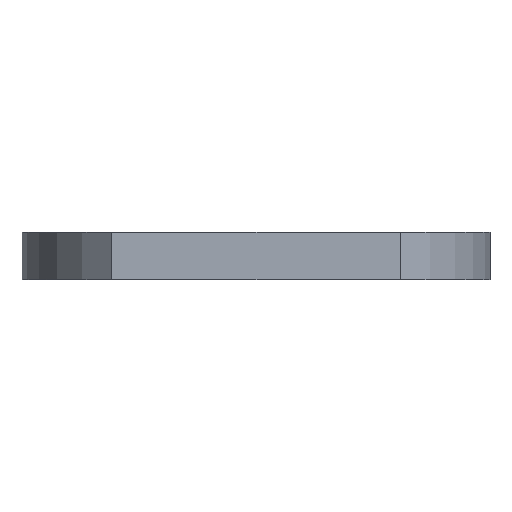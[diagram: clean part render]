
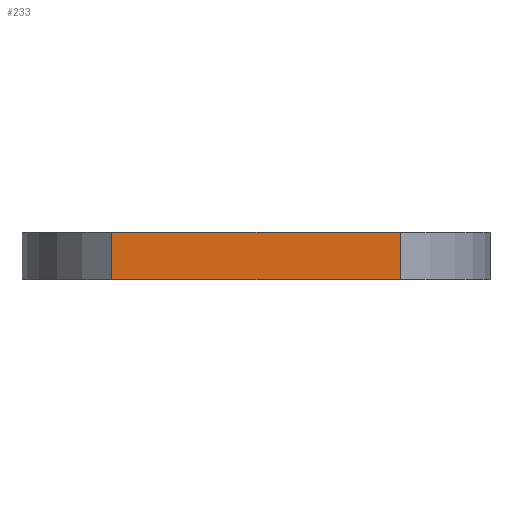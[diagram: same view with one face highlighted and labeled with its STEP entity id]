
A CAD part, left-side view. The second image highlights one B-rep face of the part: STEP entity #233.
In plain terms, the highlighted planar face has unit normal (-1, 0, 0) as drawn and (0, 1, 0) by its records, which use the part's own axes.
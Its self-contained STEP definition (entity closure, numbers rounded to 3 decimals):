
#50 = PLANE('',#51);
#51 = AXIS2_PLACEMENT_3D('',#52,#53,#54);
#52 = CARTESIAN_POINT('',(-13.4,17.132,-1.6));
#53 = DIRECTION('',(-1.,0.,0.));
#54 = DIRECTION('',(0.,1.,0.));
#75 = VERTEX_POINT('',#76);
#76 = CARTESIAN_POINT('',(-13.4,35.695,2.8));
#90 = PLANE('',#91);
#91 = AXIS2_PLACEMENT_3D('',#92,#93,#94);
#92 = CARTESIAN_POINT('',(0.,0.,2.8));
#93 = DIRECTION('',(0.,0.,1.));
#94 = DIRECTION('',(1.,0.,0.));
#102 = EDGE_CURVE('',#103,#75,#105,.T.);
#103 = VERTEX_POINT('',#104);
#104 = CARTESIAN_POINT('',(-13.4,35.695,-1.6));
#105 = SURFACE_CURVE('',#106,(#110,#117),.PCURVE_S1.);
#106 = LINE('',#107,#108);
#107 = CARTESIAN_POINT('',(-13.4,35.695,-1.6));
#108 = VECTOR('',#109,1.);
#109 = DIRECTION('',(0.,0.,1.));
#110 = PCURVE('',#50,#111);
#111 = DEFINITIONAL_REPRESENTATION('',(#112),#116);
#112 = LINE('',#113,#114);
#113 = CARTESIAN_POINT('',(18.563,0.));
#114 = VECTOR('',#115,1.);
#115 = DIRECTION('',(0.,-1.));
#116 = ( GEOMETRIC_REPRESENTATION_CONTEXT(2) 
PARAMETRIC_REPRESENTATION_CONTEXT() REPRESENTATION_CONTEXT('2D SPACE',''
  ) );
#117 = PCURVE('',#118,#123);
#118 = PLANE('',#119);
#119 = AXIS2_PLACEMENT_3D('',#120,#121,#122);
#120 = CARTESIAN_POINT('',(-13.4,35.695,-1.6));
#121 = DIRECTION('',(0.,1.,0.));
#122 = DIRECTION('',(1.,0.,0.));
#123 = DEFINITIONAL_REPRESENTATION('',(#124),#128);
#124 = LINE('',#125,#126);
#125 = CARTESIAN_POINT('',(0.,0.));
#126 = VECTOR('',#127,1.);
#127 = DIRECTION('',(0.,-1.));
#128 = ( GEOMETRIC_REPRESENTATION_CONTEXT(2) 
PARAMETRIC_REPRESENTATION_CONTEXT() REPRESENTATION_CONTEXT('2D SPACE',''
  ) );
#144 = PLANE('',#145);
#145 = AXIS2_PLACEMENT_3D('',#146,#147,#148);
#146 = CARTESIAN_POINT('',(0.,0.,-1.6)
  );
#147 = DIRECTION('',(0.,0.,1.));
#148 = DIRECTION('',(1.,0.,0.));
#233 = ADVANCED_FACE('',(#234),#118,.T.);
#234 = FACE_BOUND('',#235,.T.);
#235 = EDGE_LOOP('',(#236,#237,#260,#288));
#236 = ORIENTED_EDGE('',*,*,#102,.T.);
#237 = ORIENTED_EDGE('',*,*,#238,.T.);
#238 = EDGE_CURVE('',#75,#239,#241,.T.);
#239 = VERTEX_POINT('',#240);
#240 = CARTESIAN_POINT('',(13.4,35.695,2.8));
#241 = SURFACE_CURVE('',#242,(#246,#253),.PCURVE_S1.);
#242 = LINE('',#243,#244);
#243 = CARTESIAN_POINT('',(0.,35.695,2.8));
#244 = VECTOR('',#245,1.);
#245 = DIRECTION('',(1.,0.,0.));
#246 = PCURVE('',#118,#247);
#247 = DEFINITIONAL_REPRESENTATION('',(#248),#252);
#248 = LINE('',#249,#250);
#249 = CARTESIAN_POINT('',(13.4,-4.4));
#250 = VECTOR('',#251,1.);
#251 = DIRECTION('',(1.,0.));
#252 = ( GEOMETRIC_REPRESENTATION_CONTEXT(2) 
PARAMETRIC_REPRESENTATION_CONTEXT() REPRESENTATION_CONTEXT('2D SPACE',''
  ) );
#253 = PCURVE('',#90,#254);
#254 = DEFINITIONAL_REPRESENTATION('',(#255),#259);
#255 = LINE('',#256,#257);
#256 = CARTESIAN_POINT('',(0.,35.695));
#257 = VECTOR('',#258,1.);
#258 = DIRECTION('',(1.,0.));
#259 = ( GEOMETRIC_REPRESENTATION_CONTEXT(2) 
PARAMETRIC_REPRESENTATION_CONTEXT() REPRESENTATION_CONTEXT('2D SPACE',''
  ) );
#260 = ORIENTED_EDGE('',*,*,#261,.F.);
#261 = EDGE_CURVE('',#262,#239,#264,.T.);
#262 = VERTEX_POINT('',#263);
#263 = CARTESIAN_POINT('',(13.4,35.695,-1.6));
#264 = SURFACE_CURVE('',#265,(#269,#276),.PCURVE_S1.);
#265 = LINE('',#266,#267);
#266 = CARTESIAN_POINT('',(13.4,35.695,-1.6));
#267 = VECTOR('',#268,1.);
#268 = DIRECTION('',(0.,0.,1.));
#269 = PCURVE('',#118,#270);
#270 = DEFINITIONAL_REPRESENTATION('',(#271),#275);
#271 = LINE('',#272,#273);
#272 = CARTESIAN_POINT('',(26.8,0.));
#273 = VECTOR('',#274,1.);
#274 = DIRECTION('',(0.,-1.));
#275 = ( GEOMETRIC_REPRESENTATION_CONTEXT(2) 
PARAMETRIC_REPRESENTATION_CONTEXT() REPRESENTATION_CONTEXT('2D SPACE',''
  ) );
#276 = PCURVE('',#277,#282);
#277 = PLANE('',#278);
#278 = AXIS2_PLACEMENT_3D('',#279,#280,#281);
#279 = CARTESIAN_POINT('',(13.4,17.132,-1.6));
#280 = DIRECTION('',(-1.,0.,0.));
#281 = DIRECTION('',(0.,1.,0.));
#282 = DEFINITIONAL_REPRESENTATION('',(#283),#287);
#283 = LINE('',#284,#285);
#284 = CARTESIAN_POINT('',(18.563,0.));
#285 = VECTOR('',#286,1.);
#286 = DIRECTION('',(0.,-1.));
#287 = ( GEOMETRIC_REPRESENTATION_CONTEXT(2) 
PARAMETRIC_REPRESENTATION_CONTEXT() REPRESENTATION_CONTEXT('2D SPACE',''
  ) );
#288 = ORIENTED_EDGE('',*,*,#289,.F.);
#289 = EDGE_CURVE('',#103,#262,#290,.T.);
#290 = SURFACE_CURVE('',#291,(#295,#302),.PCURVE_S1.);
#291 = LINE('',#292,#293);
#292 = CARTESIAN_POINT('',(0.,35.695,-1.6));
#293 = VECTOR('',#294,1.);
#294 = DIRECTION('',(1.,0.,0.));
#295 = PCURVE('',#118,#296);
#296 = DEFINITIONAL_REPRESENTATION('',(#297),#301);
#297 = LINE('',#298,#299);
#298 = CARTESIAN_POINT('',(13.4,0.));
#299 = VECTOR('',#300,1.);
#300 = DIRECTION('',(1.,0.));
#301 = ( GEOMETRIC_REPRESENTATION_CONTEXT(2) 
PARAMETRIC_REPRESENTATION_CONTEXT() REPRESENTATION_CONTEXT('2D SPACE',''
  ) );
#302 = PCURVE('',#144,#303);
#303 = DEFINITIONAL_REPRESENTATION('',(#304),#308);
#304 = LINE('',#305,#306);
#305 = CARTESIAN_POINT('',(0.,35.695));
#306 = VECTOR('',#307,1.);
#307 = DIRECTION('',(1.,0.));
#308 = ( GEOMETRIC_REPRESENTATION_CONTEXT(2) 
PARAMETRIC_REPRESENTATION_CONTEXT() REPRESENTATION_CONTEXT('2D SPACE',''
  ) );
